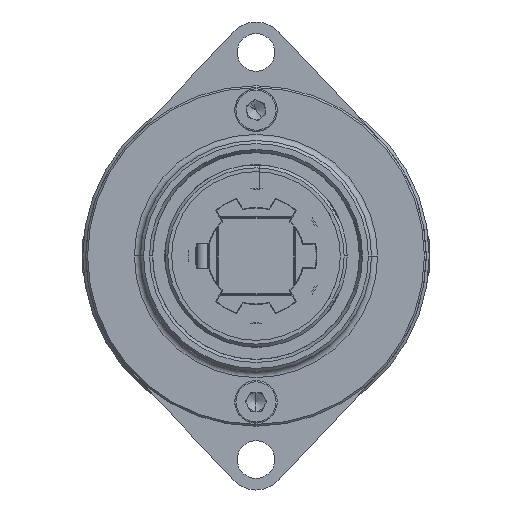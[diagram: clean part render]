
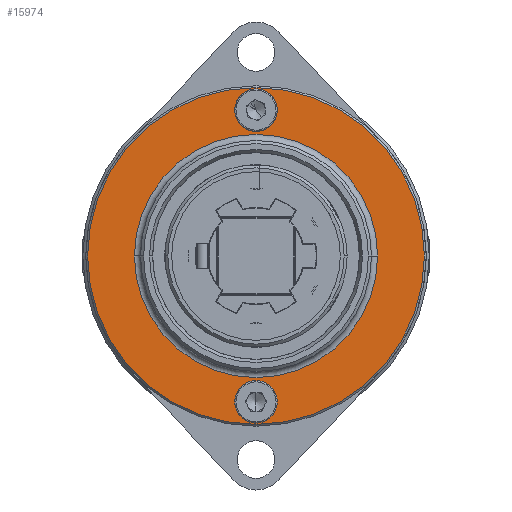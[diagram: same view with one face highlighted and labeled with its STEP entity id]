
A CAD part, left-side view. The second image highlights one B-rep face of the part: STEP entity #15974.
In plain terms, the highlighted planar face has unit normal (-1, 0, 0).
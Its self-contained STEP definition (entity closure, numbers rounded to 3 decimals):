
#507 = VERTEX_POINT ( 'NONE', #12082 ) ;
#1516 = DIRECTION ( 'NONE',  ( 0., -1., 0. ) ) ;
#1634 = CIRCLE ( 'NONE', #17744, 27.7 ) ;
#2914 = VERTEX_POINT ( 'NONE', #47049 ) ;
#3198 = DIRECTION ( 'NONE',  ( -1., 0., 0. ) ) ;
#3401 = DIRECTION ( 'NONE',  ( -1., 0., 0. ) ) ;
#3472 = EDGE_LOOP ( 'NONE', ( #32587, #21338 ) ) ;
#4849 = DIRECTION ( 'NONE',  ( -1., 0., 0. ) ) ;
#5136 = VERTEX_POINT ( 'NONE', #59750 ) ;
#5534 = PLANE ( 'NONE',  #37645 ) ;
#5627 = FACE_OUTER_BOUND ( 'NONE', #56248, .T. ) ;
#6945 = CIRCLE ( 'NONE', #27328, 20. ) ;
#7211 = ORIENTED_EDGE ( 'NONE', *, *, #37951, .F. ) ;
#8284 = DIRECTION ( 'NONE',  ( -1., 0., 0. ) ) ;
#9967 = ORIENTED_EDGE ( 'NONE', *, *, #26101, .T. ) ;
#10106 = CARTESIAN_POINT ( 'NONE',  ( -53.745, 0.816, 84. ) ) ;
#10263 = VERTEX_POINT ( 'NONE', #52748 ) ;
#11559 = CARTESIAN_POINT ( 'NONE',  ( -53.745, 0.816, 132. ) ) ;
#12082 = CARTESIAN_POINT ( 'NONE',  ( -53.745, 28.516, 108. ) ) ;
#13130 = CARTESIAN_POINT ( 'NONE',  ( -53.745, 0.816, 108. ) ) ;
#14484 = EDGE_CURVE ( 'NONE', #2914, #5136, #21700, .T. ) ;
#14915 = DIRECTION ( 'NONE',  ( 0., -1., 0. ) ) ;
#14971 = CARTESIAN_POINT ( 'NONE',  ( -53.745, 0.816, 108. ) ) ;
#15180 = VERTEX_POINT ( 'NONE', #38056 ) ;
#15974 = ADVANCED_FACE ( 'NONE', ( #5627, #39292, #42621, #45929 ), #5534, .T. ) ;
#16618 = CARTESIAN_POINT ( 'NONE',  ( -53.745, 0.816, 84. ) ) ;
#16995 = DIRECTION ( 'NONE',  ( 0., -1., 0. ) ) ;
#17744 = AXIS2_PLACEMENT_3D ( 'NONE', #13130, #51464, #44789 ) ;
#19634 = VERTEX_POINT ( 'NONE', #20162 ) ;
#20162 = CARTESIAN_POINT ( 'NONE',  ( -53.745, 4.316, 84. ) ) ;
#21338 = ORIENTED_EDGE ( 'NONE', *, *, #53769, .F. ) ;
#21547 = DIRECTION ( 'NONE',  ( 1., 0., 0. ) ) ;
#21700 = CIRCLE ( 'NONE', #24982, 20. ) ;
#22239 = AXIS2_PLACEMENT_3D ( 'NONE', #16618, #3198, #61665 ) ;
#23253 = CIRCLE ( 'NONE', #22239, 3.5 ) ;
#23659 = DIRECTION ( 'NONE',  ( -1., 0., 0. ) ) ;
#23831 = AXIS2_PLACEMENT_3D ( 'NONE', #30309, #23659, #16995 ) ;
#24982 = AXIS2_PLACEMENT_3D ( 'NONE', #43905, #37316, #30643 ) ;
#25080 = EDGE_LOOP ( 'NONE', ( #62252, #7211 ) ) ;
#26101 = EDGE_CURVE ( 'NONE', #507, #60804, #1634, .T. ) ;
#27328 = AXIS2_PLACEMENT_3D ( 'NONE', #34920, #21547, #14915 ) ;
#28423 = EDGE_CURVE ( 'NONE', #15180, #19634, #23253, .T. ) ;
#30309 = CARTESIAN_POINT ( 'NONE',  ( -53.745, 0.816, 132. ) ) ;
#30643 = DIRECTION ( 'NONE',  ( 0., -1., 0. ) ) ;
#31448 = ORIENTED_EDGE ( 'NONE', *, *, #64047, .T. ) ;
#32501 = CARTESIAN_POINT ( 'NONE',  ( -53.745, 4.316, 132. ) ) ;
#32587 = ORIENTED_EDGE ( 'NONE', *, *, #58855, .F. ) ;
#34920 = CARTESIAN_POINT ( 'NONE',  ( -53.745, 0.816, 108. ) ) ;
#37316 = DIRECTION ( 'NONE',  ( 1., 0., 0. ) ) ;
#37645 = AXIS2_PLACEMENT_3D ( 'NONE', #63983, #57352, #50632 ) ;
#37836 = AXIS2_PLACEMENT_3D ( 'NONE', #11559, #4849, #63296 ) ;
#37951 = EDGE_CURVE ( 'NONE', #19634, #15180, #50322, .T. ) ;
#38056 = CARTESIAN_POINT ( 'NONE',  ( -53.745, -2.684, 84. ) ) ;
#39292 = FACE_BOUND ( 'NONE', #57786, .T. ) ;
#41413 = EDGE_CURVE ( 'NONE', #5136, #2914, #6945, .T. ) ;
#42021 = VERTEX_POINT ( 'NONE', #32501 ) ;
#42621 = FACE_BOUND ( 'NONE', #3472, .T. ) ;
#43905 = CARTESIAN_POINT ( 'NONE',  ( -53.745, 0.816, 108. ) ) ;
#44789 = DIRECTION ( 'NONE',  ( 0., -1., 0. ) ) ;
#45929 = FACE_BOUND ( 'NONE', #25080, .T. ) ;
#47049 = CARTESIAN_POINT ( 'NONE',  ( -53.745, -19.184, 108. ) ) ;
#48486 = CIRCLE ( 'NONE', #37836, 3.5 ) ;
#50322 = CIRCLE ( 'NONE', #55453, 3.5 ) ;
#50632 = DIRECTION ( 'NONE',  ( 0., -1., 0. ) ) ;
#51464 = DIRECTION ( 'NONE',  ( -1., 0., 0. ) ) ;
#52748 = CARTESIAN_POINT ( 'NONE',  ( -53.745, -2.684, 132. ) ) ;
#53769 = EDGE_CURVE ( 'NONE', #42021, #10263, #48486, .T. ) ;
#55453 = AXIS2_PLACEMENT_3D ( 'NONE', #10106, #3401, #61874 ) ;
#56248 = EDGE_LOOP ( 'NONE', ( #9967, #31448 ) ) ;
#57352 = DIRECTION ( 'NONE',  ( -1., 0., 0. ) ) ;
#57361 = CARTESIAN_POINT ( 'NONE',  ( -53.745, -26.884, 108. ) ) ;
#57786 = EDGE_LOOP ( 'NONE', ( #64074, #58604 ) ) ;
#58260 = AXIS2_PLACEMENT_3D ( 'NONE', #14971, #8284, #1516 ) ;
#58604 = ORIENTED_EDGE ( 'NONE', *, *, #41413, .T. ) ;
#58855 = EDGE_CURVE ( 'NONE', #10263, #42021, #61082, .T. ) ;
#59750 = CARTESIAN_POINT ( 'NONE',  ( -53.745, 20.816, 108. ) ) ;
#60804 = VERTEX_POINT ( 'NONE', #57361 ) ;
#61082 = CIRCLE ( 'NONE', #23831, 3.5 ) ;
#61193 = CIRCLE ( 'NONE', #58260, 27.7 ) ;
#61665 = DIRECTION ( 'NONE',  ( 0., -1., 0. ) ) ;
#61874 = DIRECTION ( 'NONE',  ( 0., -1., 0. ) ) ;
#62252 = ORIENTED_EDGE ( 'NONE', *, *, #28423, .F. ) ;
#63296 = DIRECTION ( 'NONE',  ( 0., -1., 0. ) ) ;
#63983 = CARTESIAN_POINT ( 'NONE',  ( -53.745, 0.816, 108. ) ) ;
#64047 = EDGE_CURVE ( 'NONE', #60804, #507, #61193, .T. ) ;
#64074 = ORIENTED_EDGE ( 'NONE', *, *, #14484, .T. ) ;
